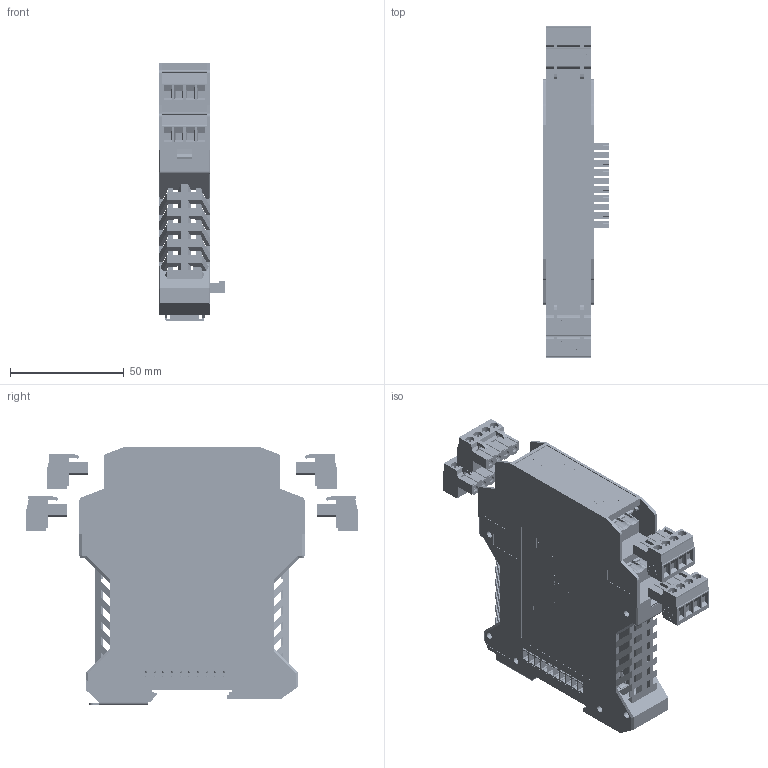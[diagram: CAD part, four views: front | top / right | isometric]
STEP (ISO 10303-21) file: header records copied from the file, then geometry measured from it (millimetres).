
FILE_DESCRIPTION(('STEP AP203'), '1');
FILE_NAME('鍛鍧 BTT-4_', '', ('UNSPECIFIED'), ('UNSPECIFIED'), 'ASCON STEP Converter 1.3', 'ASCON Math Kernel', '');
FILE_SCHEMA(('CONFIG_CONTROL_DESIGN'));
Length unit declared in the file: millimetre
Products named in the file (16): ME_22.5_UTR_H_BUS_10_H.Select__00496319; ME_Verriegelungshaken_H.Select__00446697; ME_22.5_UTL_H_BUS_10_H.Select__00496310; ME_BUS_22.5_MC_10-ST_H.Select__00493208; ME_BUS_FE-CONTACT_H.Select__00437355; Fussriegel_17.5_L30_H.Select__00315466; ME_22_5_OT-MSTBO_H.Select__00273265; MSTBO_2_5_4-G1L_H.Select__00364411; MSTBO_2_5_4-G1R_H.Select__00364505; MSTBT_2.5-4-ST
Assembly tree (21 placements, depth 5):
  (unnamed)
    (unnamed)
      (unnamed)
        (unnamed)
          ME_22.5_UTR_H_BUS_10_H.Select__00496319
          ME_Verriegelungshaken_H.Select__00446697  x2
          ME_22.5_UTL_H_BUS_10_H.Select__00496310
          ME_BUS_22.5_MC_10-ST_H.Select__00493208
          ME_BUS_FE-CONTACT_H.Select__00437355
          Fussriegel_17.5_L30_H.Select__00315466
      (unnamed)
        ME_22_5_OT-MSTBO_H.Select__00273265
        MSTBO_2_5_4-G1L_H.Select__00364411  x2
        MSTBO_2_5_4-G1R_H.Select__00364505  x2
    MSTBT_2.5-4-ST  x4
      MSTBT_2.5-4-ST
Bounding box: 29.1 x 145.9 x 113.6 mm (x, y, z)
Volume: 76886 mm3; surface area: 99697.1 mm2
Topology: 19 solids, 21 shells, 15548 faces, 43543 edges, 28871 vertices
Faces by surface type: plane 9520, cylinder 5646, extrusion 352, cone 30
Full cylindrical faces by diameter (mm): 0.813 x3, 0.853 x3, 1.353 x16, 1.4 x32, 1.6 x20, 2 x6, 2.1 x3, 2.8 x32, 3 x12, 3.783 x16, 4 x16
Entity records: 523234 total; most frequent: CARTESIAN_POINT 77642, ORIENTED_EDGE 72262, DIRECTION 71566, EDGE_CURVE 36131, VECTOR 25226, LINE 24985, VERTEX_POINT 24049, AXIS2_PLACEMENT_3D 23170
